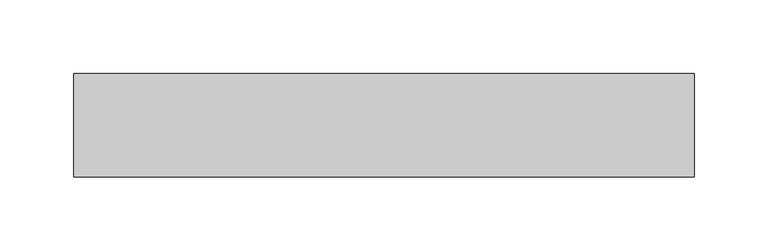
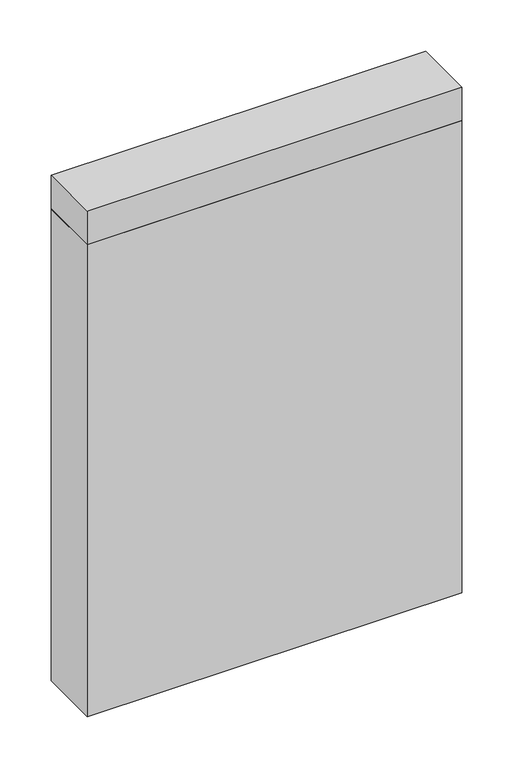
"""IFC4 building model written with IfcOpenShell, lengths in millimetres: plate geometry, 営_パーティションパネル_上部 : パーティションパネル_上部."""

from ifc_helpers import new_model, si_unit, frame, origin, origin_with_axes, place, context, project, spatial, polyline, outline, extrude, source, transform, mapped, element, save


def plate_b62a782f(model_context):
    return source(origin(), model_context, "Body", "SweptSolid", [
        extrude(outline(polyline([(-210.0, -35.0), (-210.0, 35.0), (210.0, 35.0), (210.0, -35.0), (-210.0, -35.0)])), origin_with_axes(), (0.0, 0.0, 1.0), 560.0),
        extrude(outline(polyline([(-210.0, -35.0), (-210.0, 35.0), (210.0, 35.0), (210.0, -35.0), (-210.0, -35.0)])), frame((0.0, 0.0, 560.0), z_axis=(0.0, 0.0, 1.0), x_axis=(1.0, 0.0, 0.0)), (0.0, 0.0, 1.0), 40.0),
    ])


if __name__ == "__main__":
    model = new_model("IFC4")
    model_context = context("Model", 3, world=origin())
    ifc_project = project(units=[si_unit("LENGTHUNIT", "METRE", prefix="MILLI")], contexts=[model_context])
    site = spatial("IfcSite", under=ifc_project)
    building = spatial("IfcBuilding", under=site)
    placement = place(None, origin())
    plate_shape = plate_b62a782f(model_context)
    element("IfcPlate", 1, ObjectType="営_パーティションパネル_上部 : パーティションパネル_上部", at=placement, inside=building, context=model_context, shape_type="MappedRepresentation", body=[
        mapped(plate_shape, transform((0.0, 0.0, 0.0), x_axis=(1.0, 0.0, 0.0), y_axis=(0.0, 1.0, 0.0), z_axis=(0.0, 0.0, 1.0))),
    ])
    save(model, "model.ifc")
